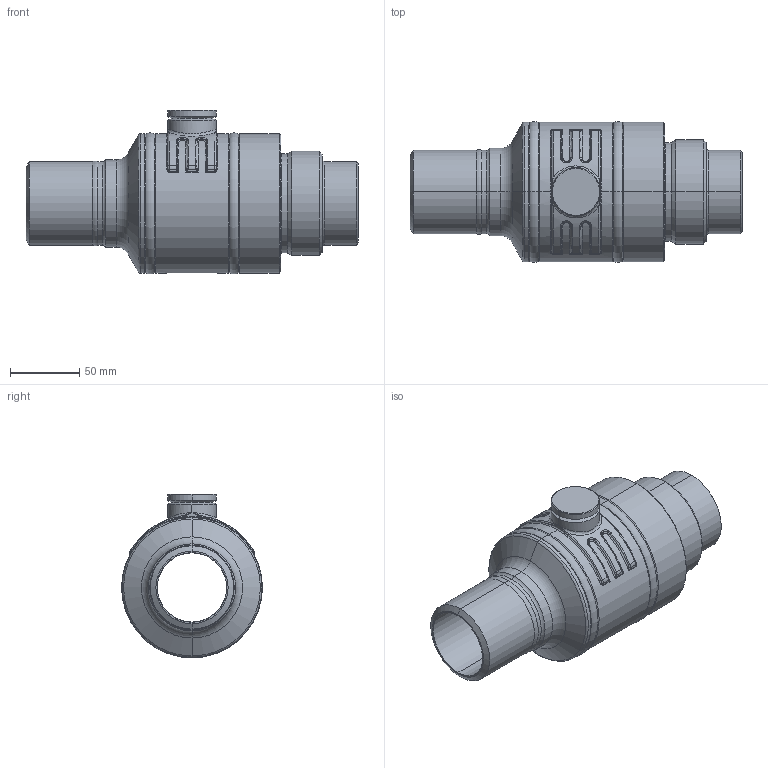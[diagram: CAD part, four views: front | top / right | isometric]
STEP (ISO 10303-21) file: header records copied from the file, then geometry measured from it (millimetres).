
FILE_DESCRIPTION((''),'2;1');
FILE_NAME('KHMO-AB-V-ISKT-050P040','2025-02-11T14:29:22',('jeitlers'),('KLINGER'),'CREO PARAMETRIC BY PTC INC, 2023014','CREO PARAMETRIC BY PTC INC, 2023014','');
FILE_SCHEMA(('CONFIG_CONTROL_DESIGN'));
Length unit declared in the file: millimetre
Products named in the file (1): KHMO-AB-V-ISKT-050P040
Bounding box: 240 x 101.91 x 118.45 mm (x, y, z)
Volume: 724936.2 mm3; surface area: 176805.9 mm2
Topology: 4 solids, 4 shells, 466 faces, 1005 edges, 567 vertices
Faces by surface type: cylinder 127, torus 116, plane 75, cone 74, bspline 72, sphere 2
Entity records: 21055 total; most frequent: CARTESIAN_POINT 11121, DIRECTION 2206, ORIENTED_EDGE 2006, EDGE_CURVE 1003, AXIS2_PLACEMENT_3D 971, CIRCLE 577, VERTEX_POINT 567, EDGE_LOOP 500
